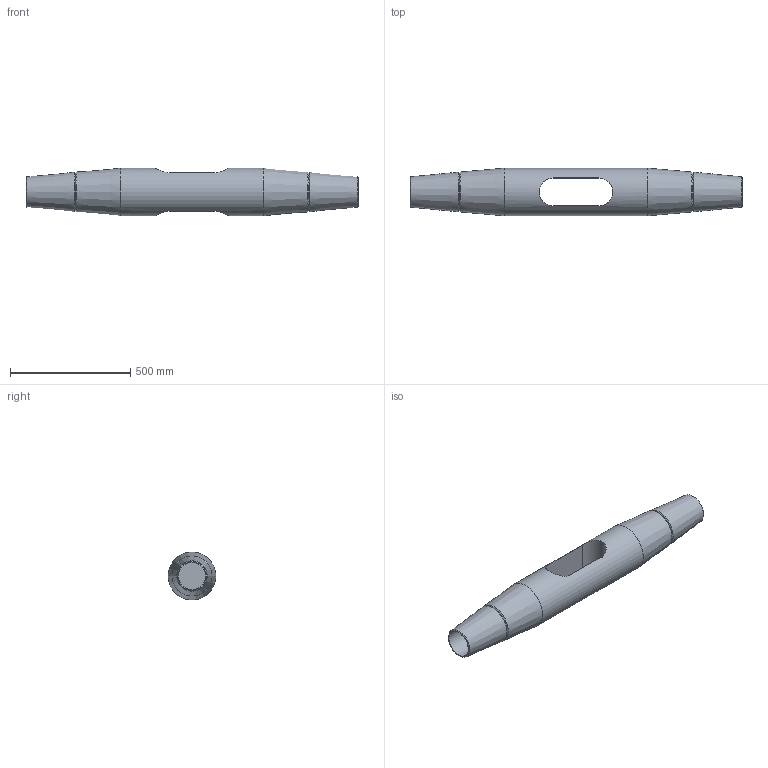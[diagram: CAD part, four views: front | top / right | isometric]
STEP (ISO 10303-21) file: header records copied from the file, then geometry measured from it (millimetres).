
FILE_DESCRIPTION(/* description */ (''),/* implementation_level */ '2;1');
FILE_NAME(/* name */ 'G:\Engineering\700 CAD\Internet-PX-1-step-igs-dxf\520-KMF-Arbeitsdateien\520-110-KMF.stp',/* time_stamp */ '2020-07-02T13:29:58+02:00',/* author */ ('schwarz'),/* organization */ (''),/* preprocessor_version */ 'ST-DEVELOPER v16.1',/* originating_system */ 'Autodesk Inventor 2016',/* authorisation */ '');
FILE_SCHEMA (('AUTOMOTIVE_DESIGN { 1 0 10303 214 3 1 1 }'));
Length unit declared in the file: centimetre
Products named in the file (1): Kreuzmuffen-Set 520 110 Kunde
Bounding box: 1378 x 198 x 198 mm (x, y, z)
Volume: 25634084.3 mm3; surface area: 962609.8 mm2
Topology: 1 solids, 1 shells, 21 faces, 41 edges, 24 vertices
Faces by surface type: cone 10, plane 6, cylinder 5
Full cylindrical faces by diameter (mm): 114 x2, 198 x1
Entity records: 653 total; most frequent: CARTESIAN_POINT 206, DIRECTION 84, ORIENTED_EDGE 56, EDGE_LOOP 38, AXIS2_PLACEMENT_3D 38, EDGE_CURVE 28, VERTEX_POINT 24, STYLED_ITEM 22
